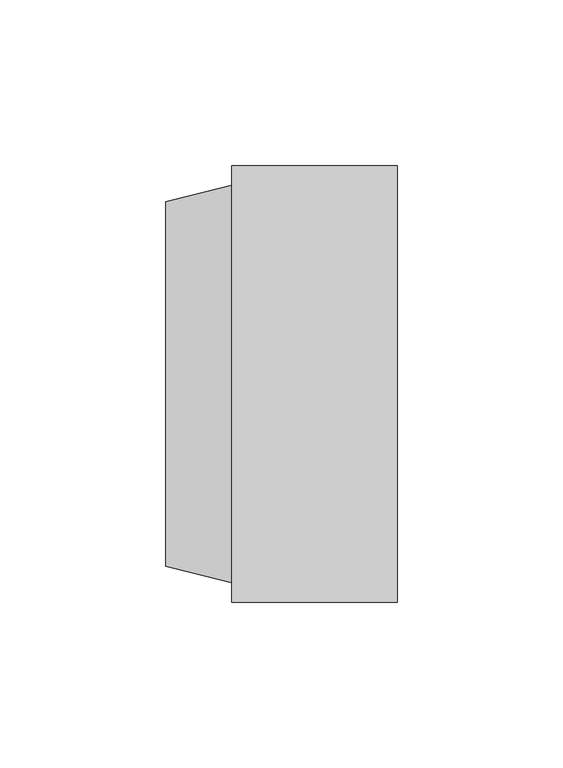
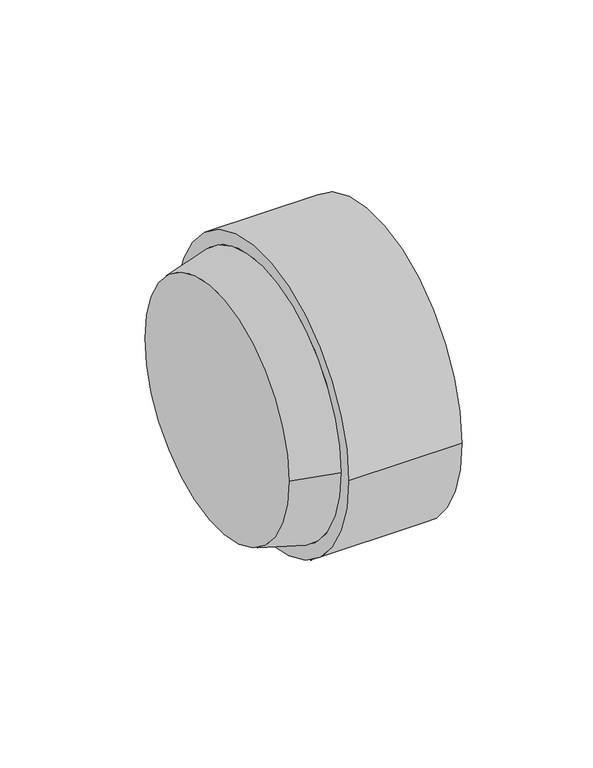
"""IFC4 building model written with IfcOpenShell, lengths in millimetres: pipe fitting geometry, NLRS_52_PIF_UN_PE aansluitmof voor staande wc_geb : DN90-100 / ø90-110."""

from ifc_helpers import new_model, si_unit, point, frame, origin, origin_2d, place, context, project, spatial, polyline, circle_curve, trimmed, segment, composite_curve, outline, extrude, source, transform, mapped, element, save
from ifc_brep_helpers import plane_surface, revolved_surface, advanced_brep


def pipe_fitting_f7247931(model_context):
    return source(origin(), model_context, "Body", "SolidModel", [
        advanced_brep(
        [(0.0, -60.0, 0.0), (0.0, 60.0, 0.0), (-20.0, -55.0, 0.0), (-20.0, 55.0, 0.0)],
        [
            (0, 1, circle_curve(frame((0.0, 0.0, 0.0), z_axis=(1.0, 0.0, 0.0), x_axis=(0.0, -1.0, 0.0)), 60.0)),
            (1, 0, circle_curve(frame((0.0, 0.0, 0.0), z_axis=(1.0, 0.0, 0.0), x_axis=(0.0, 1.0, 0.0)), 60.0)),
            (2, 3, circle_curve(frame((-20.0, 0.0, 0.0), z_axis=(-1.0, 0.0, 0.0), x_axis=(0.0, 1.0, 0.0)), 55.0)),
            (3, 2, circle_curve(frame((-20.0, 0.0, 0.0), z_axis=(-1.0, 0.0, 0.0), x_axis=(0.0, -1.0, 0.0)), 55.0)),
            (3, 1),
            (0, 2),
        ],
        [
            plane_surface(frame((0.0, 0.0, 0.0), z_axis=(1.0, 0.0, 0.0), x_axis=(0.0, 0.0, -1.0))),
            plane_surface(frame((-20.0, 0.0, 0.0), z_axis=(-1.0, 0.0, 0.0), x_axis=(0.0, 0.0, -1.0))),
            revolved_surface(polyline([(-20.0, 55.0, 0.0), (0.0, 60.0, 0.0)]), (-240.0, 0.0, 0.0), (1.0, 0.0, 0.0)),
            revolved_surface(polyline([(-20.0, -55.0, 0.0), (0.0, -60.0, 0.0)]), (-240.0, 0.0, 0.0), (1.0, 0.0, 0.0)),
        ],
        [
            (0, [[1, 2]]),
            (1, [[3, 4]]),
            (2, [[-4, 5, -1, 6]]),
            (3, [[-3, -6, -2, -5]]),
        ],
    ),
        extrude(outline(composite_curve([segment(trimmed(circle_curve(origin_2d(), 66.0), [point((-66.0, 0.0))], [point((66.0, 0.0))], False, "CARTESIAN"), True, "CONTINUOUS"), segment(trimmed(circle_curve(origin_2d(), 66.0), [point((66.0, 0.0))], [point((-66.0, 0.0))], False, "CARTESIAN"), True, "CONTINUOUS")], self_intersect=False), holes=[composite_curve([segment(trimmed(circle_curve(origin_2d(), 60.0), [point((-60.0, 0.0))], [point((60.0, 0.0))], True, "CARTESIAN"), True, "CONTINUOUS"), segment(trimmed(circle_curve(origin_2d(), 60.0), [point((60.0, 0.0))], [point((-60.0, 0.0))], True, "CARTESIAN"), True, "CONTINUOUS")], self_intersect=False)]), frame((0.0, 0.0, 0.0), z_axis=(1.0, 0.0, 0.0), x_axis=(0.0, 1.0, 0.0)), (0.0, 0.0, 1.0), 50.0),
    ])


if __name__ == "__main__":
    model = new_model("IFC4")
    model_context = context("Model", 3, world=origin())
    ifc_project = project(units=[si_unit("LENGTHUNIT", "METRE", prefix="MILLI")], contexts=[model_context])
    site = spatial("IfcSite", under=ifc_project)
    building = spatial("IfcBuilding", under=site)
    placement = place(None, origin())
    pipe_fitting_shape = pipe_fitting_f7247931(model_context)
    element("IfcPipeFitting", 1, ObjectType="NLRS_52_PIF_UN_PE aansluitmof voor staande wc_geb : DN90-100 / ø90-110", at=placement, inside=building, context=model_context, shape_type="MappedRepresentation", body=[
        mapped(pipe_fitting_shape, transform((0.0, 0.0, 0.0), x_axis=(1.0, 0.0, 0.0), y_axis=(0.0, 1.0, 0.0), z_axis=(0.0, 0.0, 1.0))),
    ])
    save(model, "model.ifc")
